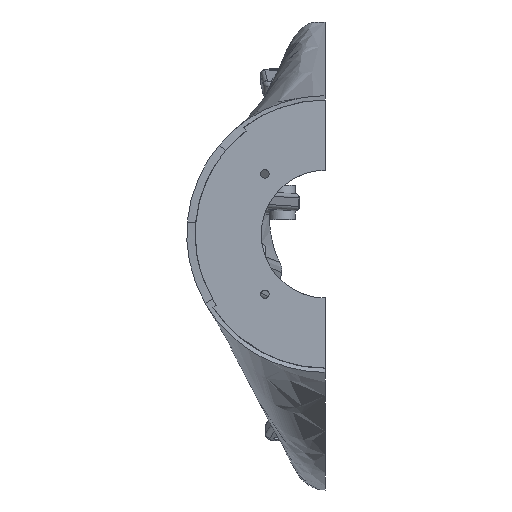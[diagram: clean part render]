
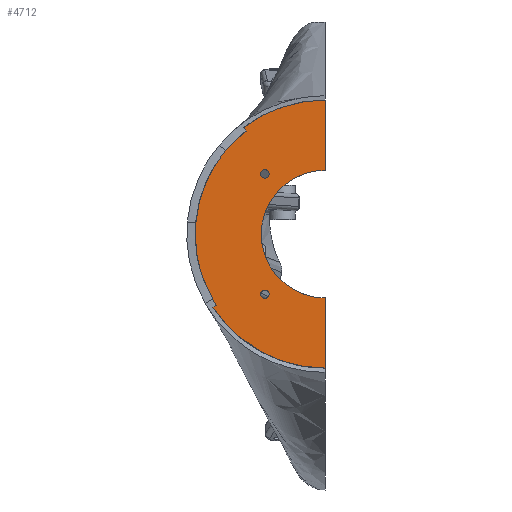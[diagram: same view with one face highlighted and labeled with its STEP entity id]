
A CAD part, top view. The second image highlights one B-rep face of the part: STEP entity #4712.
In plain terms, the highlighted planar face has unit normal (0, 0, 1).
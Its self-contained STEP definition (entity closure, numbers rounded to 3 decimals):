
#57=PLANE('',#5161);
#95=FACE_BOUND('',#1169,.T.);
#96=FACE_BOUND('',#1170,.T.);
#310=B_SPLINE_CURVE_WITH_KNOTS('',3,(#18102,#18103,#18104,#18105,#18106,
#18107),.UNSPECIFIED.,.F.,.F.,(4,2,4),(0.,0.001,0.001),
 .UNSPECIFIED.);
#409=B_SPLINE_CURVE_WITH_KNOTS('',3,(#22797,#22798,#22799,#22800,#22801,
#22802),.UNSPECIFIED.,.F.,.F.,(4,2,4),(0.,0.334,
0.667),.UNSPECIFIED.);
#410=B_SPLINE_CURVE_WITH_KNOTS('',3,(#22820,#22821,#22822,#22823,#22824,
#22825),.UNSPECIFIED.,.F.,.F.,(4,2,4),(0.,0.085,
0.17),.UNSPECIFIED.);
#411=B_SPLINE_CURVE_WITH_KNOTS('',3,(#22858,#22859,#22860,#22861,#22862,
#22863),.UNSPECIFIED.,.F.,.F.,(4,2,4),(0.,0.934,
1.865),.UNSPECIFIED.);
#414=B_SPLINE_CURVE_WITH_KNOTS('',3,(#22901,#22902,#22903,#22904,#22905,
#22906,#22907,#22908),.UNSPECIFIED.,.F.,.F.,(4,2,2,4),(0.,
0.935,1.545,1.868),.UNSPECIFIED.);
#415=B_SPLINE_CURVE_WITH_KNOTS('',3,(#22934,#22935,#22936,#22937,#22938,
#22939),.UNSPECIFIED.,.F.,.F.,(4,2,4),(0.,0.001,0.001),
 .UNSPECIFIED.);
#838=FACE_OUTER_BOUND('',#1168,.T.);
#1168=EDGE_LOOP('',(#4276,#4277,#4278,#4279,#4280,#4281,#4282,#4283,#4284,
#4285,#4286,#4287,#4288,#4289));
#1169=EDGE_LOOP('',(#4290));
#1170=EDGE_LOOP('',(#4291));
#1280=LINE('',#20806,#1452);
#1285=LINE('',#21006,#1457);
#1289=LINE('',#22921,#1461);
#1335=LINE('',#27066,#1507);
#1342=LINE('',#27080,#1514);
#1452=VECTOR('',#5677,10.);
#1457=VECTOR('',#5682,10.);
#1461=VECTOR('',#5688,10.);
#1507=VECTOR('',#6122,1000.);
#1514=VECTOR('',#6131,1000.);
#1528=CIRCLE('',#4750,1.);
#1530=CIRCLE('',#4753,1.);
#1766=CIRCLE('',#5150,31.5);
#1767=CIRCLE('',#5152,31.5);
#1768=CIRCLE('',#5154,15.);
#1779=VERTEX_POINT('',#6198);
#1781=VERTEX_POINT('',#6204);
#2037=VERTEX_POINT('',#18100);
#2038=VERTEX_POINT('',#18101);
#2108=VERTEX_POINT('',#20794);
#2109=VERTEX_POINT('',#20805);
#2116=VERTEX_POINT('',#20959);
#2118=VERTEX_POINT('',#20992);
#2143=VERTEX_POINT('',#22819);
#2144=VERTEX_POINT('',#22855);
#2145=VERTEX_POINT('',#22857);
#2146=VERTEX_POINT('',#22896);
#2188=VERTEX_POINT('',#27063);
#2189=VERTEX_POINT('',#27065);
#2194=VERTEX_POINT('',#27077);
#2195=VERTEX_POINT('',#27079);
#2210=EDGE_CURVE('',#1779,#1779,#1528,.T.);
#2213=EDGE_CURVE('',#1781,#1781,#1530,.T.);
#2534=EDGE_CURVE('',#2037,#2038,#310,.T.);
#2638=EDGE_CURVE('',#2109,#2108,#1280,.T.);
#2652=EDGE_CURVE('',#2116,#2118,#1285,.T.);
#2689=EDGE_CURVE('',#2037,#2118,#409,.T.);
#2690=EDGE_CURVE('',#2109,#2143,#410,.T.);
#2693=EDGE_CURVE('',#2144,#2145,#411,.T.);
#2696=EDGE_CURVE('',#2146,#2038,#414,.T.);
#2697=EDGE_CURVE('',#2144,#2143,#1289,.T.);
#2698=EDGE_CURVE('',#2146,#2145,#415,.T.);
#2881=EDGE_CURVE('',#2189,#2188,#1335,.T.);
#2888=EDGE_CURVE('',#2195,#2194,#1342,.T.);
#2891=EDGE_CURVE('',#2108,#2195,#1766,.T.);
#2892=EDGE_CURVE('',#2188,#2116,#1767,.T.);
#2893=EDGE_CURVE('',#2194,#2189,#1768,.T.);
#4276=ORIENTED_EDGE('',*,*,#2698,.T.);
#4277=ORIENTED_EDGE('',*,*,#2693,.F.);
#4278=ORIENTED_EDGE('',*,*,#2697,.T.);
#4279=ORIENTED_EDGE('',*,*,#2690,.F.);
#4280=ORIENTED_EDGE('',*,*,#2638,.T.);
#4281=ORIENTED_EDGE('',*,*,#2891,.T.);
#4282=ORIENTED_EDGE('',*,*,#2888,.T.);
#4283=ORIENTED_EDGE('',*,*,#2893,.T.);
#4284=ORIENTED_EDGE('',*,*,#2881,.T.);
#4285=ORIENTED_EDGE('',*,*,#2892,.T.);
#4286=ORIENTED_EDGE('',*,*,#2652,.T.);
#4287=ORIENTED_EDGE('',*,*,#2689,.F.);
#4288=ORIENTED_EDGE('',*,*,#2534,.T.);
#4289=ORIENTED_EDGE('',*,*,#2696,.F.);
#4290=ORIENTED_EDGE('',*,*,#2210,.F.);
#4291=ORIENTED_EDGE('',*,*,#2213,.F.);
#4712=ADVANCED_FACE('',(#838,#95,#96),#57,.T.);
#4750=AXIS2_PLACEMENT_3D('',#6200,#5179,#5180);
#4753=AXIS2_PLACEMENT_3D('',#6206,#5186,#5187);
#5150=AXIS2_PLACEMENT_3D('',#27085,#6139,#6140);
#5152=AXIS2_PLACEMENT_3D('',#27087,#6143,#6144);
#5154=AXIS2_PLACEMENT_3D('',#27089,#6147,#6148);
#5161=AXIS2_PLACEMENT_3D('',#27346,#6164,#6165);
#5179=DIRECTION('center_axis',(0.,0.,1.));
#5180=DIRECTION('ref_axis',(1.,0.,0.));
#5186=DIRECTION('center_axis',(0.,0.,1.));
#5187=DIRECTION('ref_axis',(1.,0.,0.));
#5677=DIRECTION('',(-0.837,-0.548,0.));
#5682=DIRECTION('',(0.608,-0.794,0.));
#5688=DIRECTION('',(0.5,-0.866,0.));
#6122=DIRECTION('',(0.,1.,0.));
#6131=DIRECTION('',(0.,1.,0.));
#6139=DIRECTION('center_axis',(0.,0.,1.));
#6140=DIRECTION('ref_axis',(1.,0.,0.));
#6143=DIRECTION('center_axis',(0.,0.,1.));
#6144=DIRECTION('ref_axis',(1.,0.,0.));
#6147=DIRECTION('center_axis',(0.,0.,-1.));
#6148=DIRECTION('ref_axis',(1.,0.,0.));
#6164=DIRECTION('center_axis',(0.,0.,1.));
#6165=DIRECTION('ref_axis',(1.,0.,0.));
#6198=CARTESIAN_POINT('',(-15.142,-14.142,0.));
#6200=CARTESIAN_POINT('Origin',(-14.142,-14.142,0.));
#6204=CARTESIAN_POINT('',(-15.142,14.142,0.));
#6206=CARTESIAN_POINT('Origin',(-14.142,14.142,0.));
#18100=CARTESIAN_POINT('',(-23.347,19.61,0.));
#18101=CARTESIAN_POINT('',(-23.355,19.6,0.));
#18102=CARTESIAN_POINT('Ctrl Pts',(-23.347,19.61,0.));
#18103=CARTESIAN_POINT('Ctrl Pts',(-23.348,19.608,0.));
#18104=CARTESIAN_POINT('Ctrl Pts',(-23.35,19.607,0.));
#18105=CARTESIAN_POINT('Ctrl Pts',(-23.352,19.603,0.));
#18106=CARTESIAN_POINT('Ctrl Pts',(-23.354,19.602,0.));
#18107=CARTESIAN_POINT('Ctrl Pts',(-23.355,19.6,0.));
#20794=CARTESIAN_POINT('',(-26.35,-17.26,0.));
#20805=CARTESIAN_POINT('',(-25.514,-16.712,0.));
#20806=CARTESIAN_POINT('',(-25.514,-16.712,0.));
#20959=CARTESIAN_POINT('',(-19.149,25.011,0.));
#20992=CARTESIAN_POINT('',(-18.541,24.217,0.));
#21006=CARTESIAN_POINT('',(-19.149,25.011,0.));
#22797=CARTESIAN_POINT('Ctrl Pts',(-23.347,19.61,0.));
#22798=CARTESIAN_POINT('Ctrl Pts',(-22.635,20.464,0.));
#22799=CARTESIAN_POINT('Ctrl Pts',(-21.875,21.278,0.));
#22800=CARTESIAN_POINT('Ctrl Pts',(-20.269,22.817,0.));
#22801=CARTESIAN_POINT('Ctrl Pts',(-19.424,23.541,0.));
#22802=CARTESIAN_POINT('Ctrl Pts',(-18.541,24.217,0.));
#22819=CARTESIAN_POINT('',(-26.402,-15.267,0.));
#22820=CARTESIAN_POINT('Ctrl Pts',(-25.514,-16.712,
0.));
#22821=CARTESIAN_POINT('Ctrl Pts',(-25.668,-16.476,
0.));
#22822=CARTESIAN_POINT('Ctrl Pts',(-25.82,-16.237,
0.));
#22823=CARTESIAN_POINT('Ctrl Pts',(-26.116,-15.755,
0.));
#22824=CARTESIAN_POINT('Ctrl Pts',(-26.261,-15.512,
0.));
#22825=CARTESIAN_POINT('Ctrl Pts',(-26.402,-15.267,
0.));
#22855=CARTESIAN_POINT('',(-26.405,-15.263,0.));
#22857=CARTESIAN_POINT('',(-30.362,2.616,0.));
#22858=CARTESIAN_POINT('Ctrl Pts',(-26.405,-15.263,0.));
#22859=CARTESIAN_POINT('Ctrl Pts',(-27.962,-12.567,
0.));
#22860=CARTESIAN_POINT('Ctrl Pts',(-29.094,-9.652,
0.));
#22861=CARTESIAN_POINT('Ctrl Pts',(-30.433,-3.584,
0.));
#22862=CARTESIAN_POINT('Ctrl Pts',(-30.633,-0.474,
0.));
#22863=CARTESIAN_POINT('Ctrl Pts',(-30.362,2.616,0.));
#22896=CARTESIAN_POINT('',(-30.361,2.626,0.));
#22901=CARTESIAN_POINT('Ctrl Pts',(-30.361,2.626,0.));
#22902=CARTESIAN_POINT('Ctrl Pts',(-30.096,5.731,0.));
#22903=CARTESIAN_POINT('Ctrl Pts',(-29.357,8.777,0.));
#22904=CARTESIAN_POINT('Ctrl Pts',(-27.392,13.539,0.));
#22905=CARTESIAN_POINT('Ctrl Pts',(-26.429,15.338,0.));
#22906=CARTESIAN_POINT('Ctrl Pts',(-24.692,17.919,0.));
#22907=CARTESIAN_POINT('Ctrl Pts',(-24.046,18.778,0.));
#22908=CARTESIAN_POINT('Ctrl Pts',(-23.355,19.6,0.));
#22921=CARTESIAN_POINT('',(-26.405,-15.263,0.));
#22934=CARTESIAN_POINT('Ctrl Pts',(-30.361,2.626,0.));
#22935=CARTESIAN_POINT('Ctrl Pts',(-30.361,2.625,0.));
#22936=CARTESIAN_POINT('Ctrl Pts',(-30.361,2.623,0.));
#22937=CARTESIAN_POINT('Ctrl Pts',(-30.361,2.62,0.));
#22938=CARTESIAN_POINT('Ctrl Pts',(-30.362,2.618,0.));
#22939=CARTESIAN_POINT('Ctrl Pts',(-30.362,2.616,0.));
#27063=CARTESIAN_POINT('',(0.,31.5,0.));
#27065=CARTESIAN_POINT('',(0.,15.,0.));
#27066=CARTESIAN_POINT('',(0.,31.5,0.));
#27077=CARTESIAN_POINT('',(0.,-15.,0.));
#27079=CARTESIAN_POINT('',(0.,-31.5,0.));
#27080=CARTESIAN_POINT('',(0.,-15.,0.));
#27085=CARTESIAN_POINT('Origin',(0.,0.,0.));
#27087=CARTESIAN_POINT('Origin',(0.,0.,0.));
#27089=CARTESIAN_POINT('Origin',(0.,0.,0.));
#27346=CARTESIAN_POINT('Origin',(0.,0.,0.));
